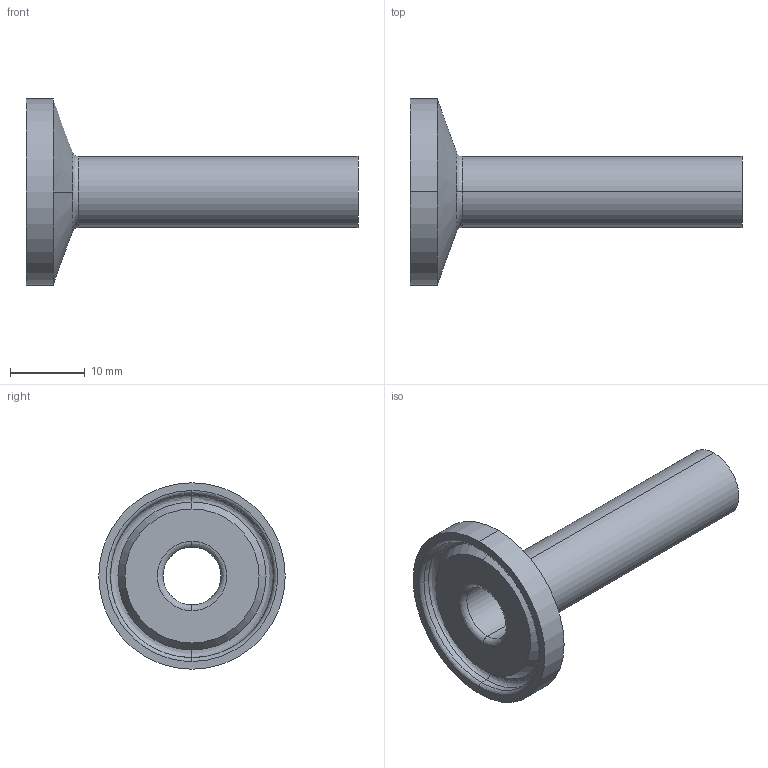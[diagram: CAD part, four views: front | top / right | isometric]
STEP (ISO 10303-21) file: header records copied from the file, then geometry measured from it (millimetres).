
FILE_DESCRIPTION (( 'STEP AP214' ), '1' );
FILE_NAME ('TEG14AM76L.375.STEP', '2016-05-23T03:46:35', ( 'eran' ), ( '' ), 'SwSTEP 2.0', 'SolidWorks 2016', '' );
FILE_SCHEMA (( 'AUTOMOTIVE_DESIGN' ));
Length unit declared in the file: millimetre
Products named in the file (1): TEG14AM76L.375
Bounding box: 44.5 x 24.99 x 24.99 mm (x, y, z)
Volume: 2712.9 mm3; surface area: 3541.2 mm2
Topology: 1 solids, 1 shells, 23 faces, 50 edges, 30 vertices
Faces by surface type: bspline 8, cylinder 8, cone 4, plane 3
Entity records: 764 total; most frequent: CARTESIAN_POINT 236, DIRECTION 112, ORIENTED_EDGE 100, AXIS2_PLACEMENT_3D 50, EDGE_CURVE 50, CIRCLE 34, VERTEX_POINT 30, EDGE_LOOP 26
